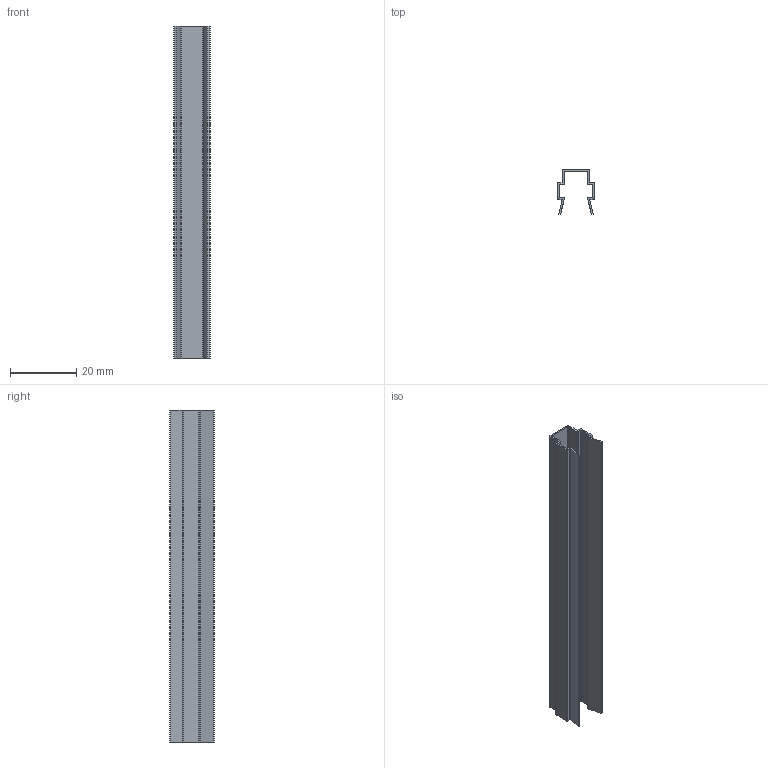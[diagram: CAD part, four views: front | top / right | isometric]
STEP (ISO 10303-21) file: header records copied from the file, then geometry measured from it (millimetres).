
FILE_DESCRIPTION(/* description */ (''),/* implementation_level */ '2;1');
FILE_NAME(/* name */ 'C:\Users\user\Desktop\AMF-08HP.stp',/* time_stamp */ '2021-10-25T17:01:02+08:00',/* author */ ('user'),/* organization */ (''),/* preprocessor_version */ 'ST-DEVELOPER v18.1',/* originating_system */ 'Autodesk Inventor 2021',/* authorisation */ '');
FILE_SCHEMA (('AUTOMOTIVE_DESIGN { 1 0 10303 214 3 1 1 }'));
Length unit declared in the file: millimetre
Products named in the file (1): 零件2
Bounding box: 10.95 x 13.47 x 100 mm (x, y, z)
Volume: 1992.7 mm3; surface area: 7938.7 mm2
Topology: 1 solids, 1 shells, 44 faces, 126 edges, 84 vertices
Faces by surface type: plane 26, cylinder 18
Entity records: 1487 total; most frequent: CARTESIAN_POINT 255, ORIENTED_EDGE 252, DIRECTION 252, EDGE_CURVE 126, LINE 90, VECTOR 90, VERTEX_POINT 84, AXIS2_PLACEMENT_3D 81
